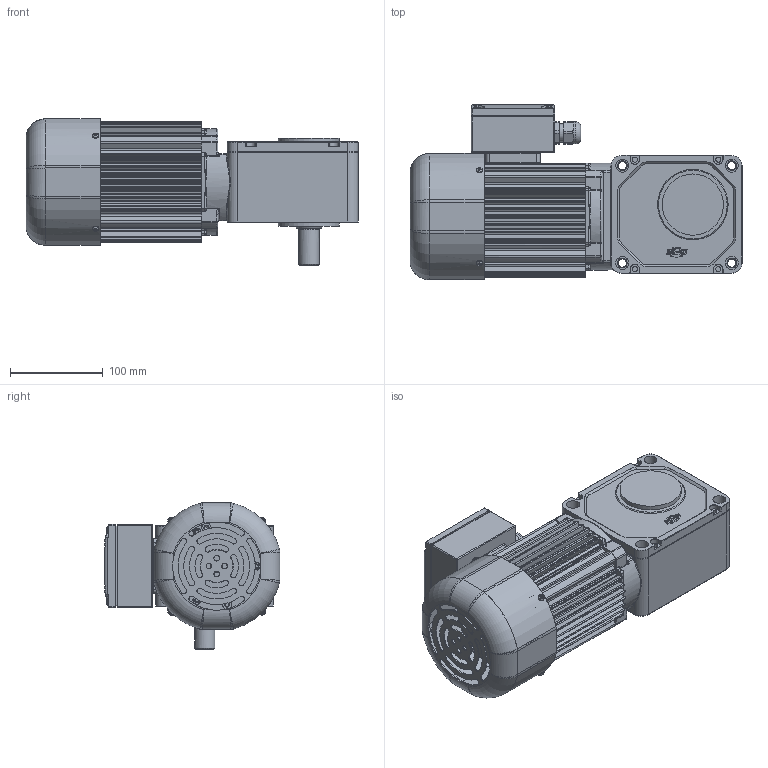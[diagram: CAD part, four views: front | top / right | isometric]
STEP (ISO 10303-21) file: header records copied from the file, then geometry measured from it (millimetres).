
FILE_DESCRIPTION(/* description */ (''),/* implementation_level */ '2;1');
FILE_NAME(/* name */ 'Z:\동력 3D 파일\PCS22R_0.2kW_Brake_3D.stp',/* time_stamp */ '2021-11-09T10:43:33+09:00',/* author */ ('jaebok'),/* organization */ (''),/* preprocessor_version */ 'ST-DEVELOPER v18.1',/* originating_system */ 'Autodesk Inventor 2022',/* authorisation */ '');
FILE_SCHEMA (('AUTOMOTIVE_DESIGN { 1 0 10303 214 3 1 1 }'));
Products named in the file (1): 부품40
Bounding box: 358 x 189.7 x 157.7 mm (x, y, z)
Volume: 1834679.1 mm3; surface area: 549370.7 mm2
Topology: 2 solids, 26 shells, 2155 faces, 5487 edges, 3460 vertices
Faces by surface type: plane 989, cylinder 815, torus 115, bspline 113, cone 111, sphere 12
Full cylindrical faces by diameter (mm): 1.5 x2, 2 x5, 3 x4, 3.242 x4, 3.25 x1, 3.3 x8, 3.6 x4, 3.8 x3, 4 x20, 4.2 x9, 5 x18, 5.5 x4, 5.8 x2, 5.9 x3, 6 x17, 6.4 x1, 6.5 x6, 6.647 x1, 7 x12, 7.9 x6, 8 x4, 8.5 x1, 8.7 x1, 9 x4, 10 x1, 12.5 x1, 14 x8, 15 x1, 16 x1, 20 x2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
Entity records: 73574 total; most frequent: CARTESIAN_POINT 19077, DIRECTION 11340, ORIENTED_EDGE 10850, EDGE_CURVE 5425, AXIS2_PLACEMENT_3D 4280, VERTEX_POINT 3453, LINE 2780, VECTOR 2780
